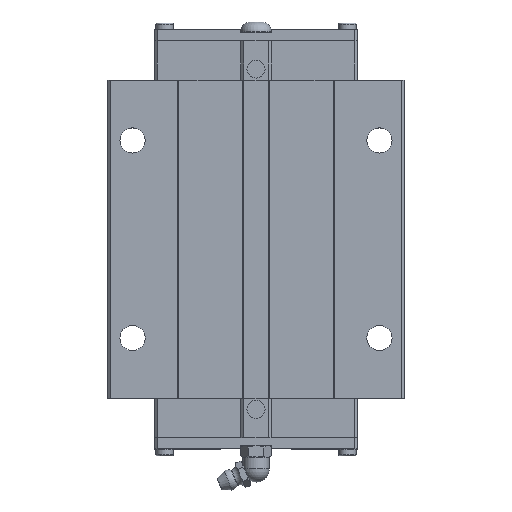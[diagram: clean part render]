
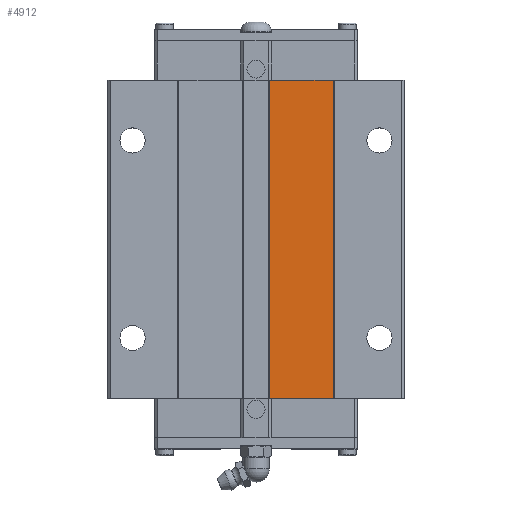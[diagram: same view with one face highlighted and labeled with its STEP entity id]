
A CAD part, top view. The second image highlights one B-rep face of the part: STEP entity #4912.
In plain terms, the highlighted planar face has unit normal (0, 0, 1).
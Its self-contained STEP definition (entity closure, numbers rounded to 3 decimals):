
#2250=VERTEX_POINT('',#5674);
#2958=EDGE_CURVE('',#3014,#2250,#6447,.T.);
#3014=VERTEX_POINT('',#6507);
#3434=VERTEX_POINT('',#6965);
#3618=EDGE_CURVE('',#3740,#2250,#7160,.T.);
#3740=VERTEX_POINT('',#7294);
#4618=EDGE_CURVE('',#3434,#3014,#8268,.T.);
#4836=EDGE_CURVE('',#3740,#3434,#8513,.T.);
#4912=ADVANCED_FACE('',(#8597),#8598,.F.);
#5674=CARTESIAN_POINT('',(5.5,20.5,59.5));
#6447=LINE('',#10812,#10813);
#6507=CARTESIAN_POINT('',(31.25,20.5,59.5));
#6965=CARTESIAN_POINT('',(31.25,149.3,59.5));
#7160=LINE('',#11900,#11901);
#7294=CARTESIAN_POINT('',(5.5,149.3,59.5));
#8268=LINE('',#13597,#13598);
#8513=LINE('',#13966,#13967);
#8597=FACE_OUTER_BOUND('',#14090,.T.);
#8598=PLANE('',#14091);
#10812=CARTESIAN_POINT('',(15.625,20.5,59.5));
#10813=VECTOR('',#15890,1.0);
#11900=CARTESIAN_POINT('',(5.5,181.5,59.5));
#11901=VECTOR('',#16571,1.0);
#13597=CARTESIAN_POINT('',(31.25,213.7,59.5));
#13598=VECTOR('',#17814,1.0);
#13966=CARTESIAN_POINT('',(15.625,149.3,59.5));
#13967=VECTOR('',#18156,1.0);
#14090=EDGE_LOOP('',(#18244,#18245,#18246,#18247));
#14091=AXIS2_PLACEMENT_3D('',#18248,#18249,#18250);
#15890=DIRECTION('',(-1.0,-0.0,-0.0));
#16571=DIRECTION('',(0.0,-1.0,0.0));
#17814=DIRECTION('',(0.0,-1.0,0.0));
#18156=DIRECTION('',(1.0,0.0,0.0));
#18244=ORIENTED_EDGE('',*,*,#3618,.T.);
#18245=ORIENTED_EDGE('',*,*,#2958,.F.);
#18246=ORIENTED_EDGE('',*,*,#4618,.F.);
#18247=ORIENTED_EDGE('',*,*,#4836,.F.);
#18248=CARTESIAN_POINT('',(31.25,213.7,59.5));
#18249=DIRECTION('',(0.0,0.0,-1.0));
#18250=DIRECTION('',(1.0,0.0,0.0));
